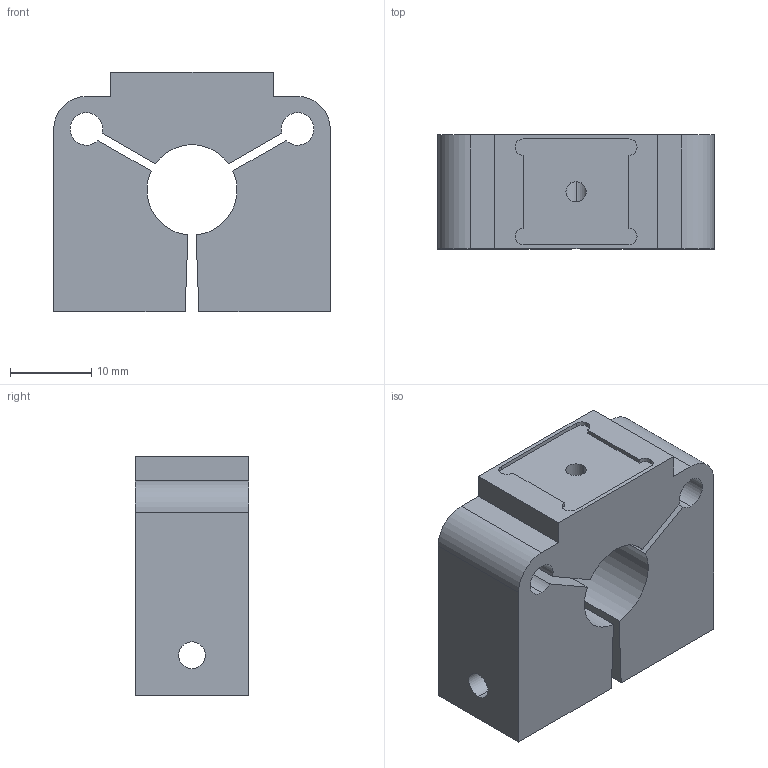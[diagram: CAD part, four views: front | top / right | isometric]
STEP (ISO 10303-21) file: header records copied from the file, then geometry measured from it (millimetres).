
FILE_DESCRIPTION (( 'STEP AP214' ), '1' );
FILE_NAME ('2022-04 - PELTIER CLAMP.STEP', '2023-01-14T14:59:11', ( '' ), ( '' ), 'SwSTEP 2.0', 'SolidWorks 2020', '' );
FILE_SCHEMA (( 'AUTOMOTIVE_DESIGN' ));
Length unit declared in the file: millimetre
Products named in the file (1): 2022-04 - PELTIER CLAMP
Bounding box: 33.98 x 14 x 29.5 mm (x, y, z)
Volume: 10349.6 mm3; surface area: 5376.1 mm2
Topology: 1 solids, 1 shells, 52 faces, 145 edges, 95 vertices
Faces by surface type: cylinder 27, plane 23, cone 2
Entity records: 1801 total; most frequent: CARTESIAN_POINT 355, DIRECTION 289, ORIENTED_EDGE 286, EDGE_CURVE 143, AXIS2_PLACEMENT_3D 101, VERTEX_POINT 95, VECTOR 87, LINE 87
